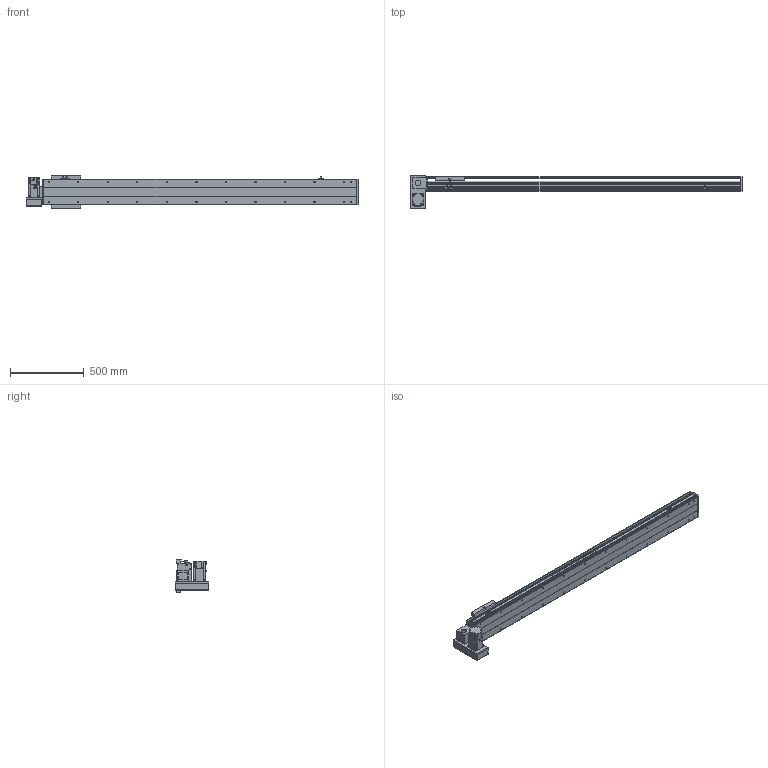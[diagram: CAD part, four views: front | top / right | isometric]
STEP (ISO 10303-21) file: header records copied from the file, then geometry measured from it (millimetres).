
FILE_DESCRIPTION(/* description */ ('STEP AP214'),/* implementation_level */ '2;1');
FILE_NAME(/* name */ 'PBS200-P40-S1750-LD-T75-C1-N(0)',/* time_stamp */ '2022-06-11T08:45:23+02:00',/* author */ ('License CC BY-ND 4.0'),/* organization */ ('CADENAS'),/* preprocessor_version */ 'ST-DEVELOPER v18.102',/* originating_system */ 'PARTsolutions',/* authorisation */ ' ');
FILE_SCHEMA (('AUTOMOTIVE_DESIGN {1 0 10303 214 3 1 1}'));
Length unit declared in the file: millimetre
Products named in the file (7): PBS200-P40-S1750-LD-T75-C1-N(0); PBS200_sensor; PBS200_plant; PBS200_sliser; T75-p1; PBS200T-LD_motors; PBS200-S1750()_body
Assembly tree (8 placements, depth 2):
  PBS200-P40-S1750-LD-T75-C1-N(0)
    PBS200_sensor  x3
    PBS200_plant
    PBS200_sliser
    T75-p1
    PBS200T-LD_motors
    PBS200-S1750()_body
Bounding box: 2250 x 230 x 221 mm (x, y, z)
Volume: 15920200.2 mm3; surface area: 2558183.1 mm2
Topology: 8 solids, 8 shells, 944 faces, 2414 edges, 1572 vertices
Faces by surface type: plane 582, cylinder 306, cone 56
Full cylindrical faces by diameter (mm): 2.459 x6, 3.242 x4, 4.5 x6, 4.917 x4, 5 x6, 6 x7, 6.6 x8, 6.647 x28, 8 x6, 10 x4, 12 x8, 38 x2, 40 x1, 70 x1
Entity records: 25061 total; most frequent: DIRECTION 4423, CARTESIAN_POINT 4264, ORIENTED_EDGE 4030, EDGE_CURVE 2015, AXIS2_PLACEMENT_3D 1555, VERTEX_POINT 1396, LINE 1313, VECTOR 1313
